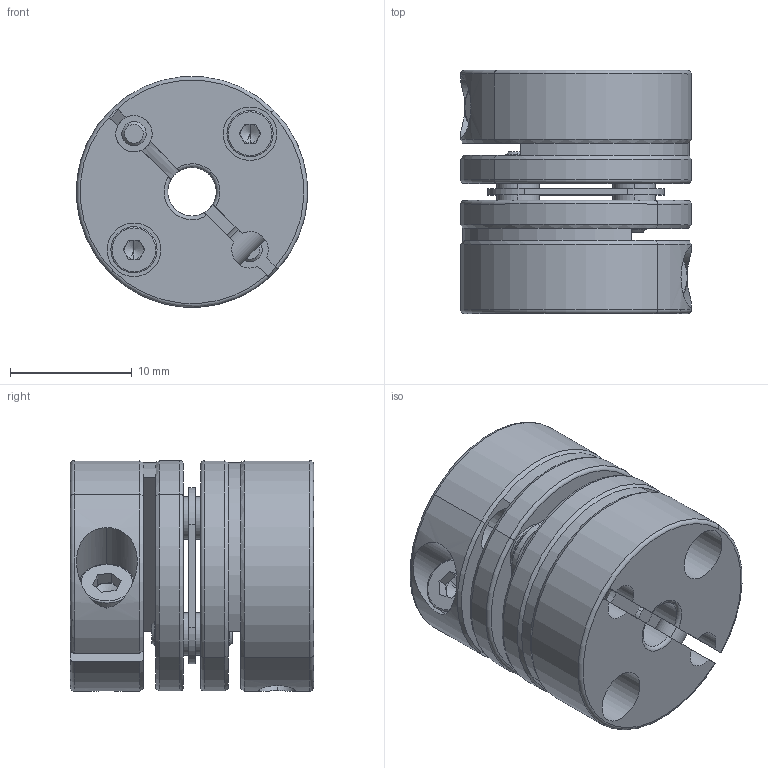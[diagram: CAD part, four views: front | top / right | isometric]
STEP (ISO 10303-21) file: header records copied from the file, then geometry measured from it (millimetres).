
FILE_DESCRIPTION (( 'STEP AP203' ), '1' );
FILE_NAME ('DXB-19X20-4-4.STEP', '2023-10-18T07:51:18', ( '' ), ( '' ), 'SwSTEP 2.0', 'SolidWorks 2020', '' );
FILE_SCHEMA (( 'CONFIG_CONTROL_DESIGN' ));
Length unit declared in the file: millimetre
Products named in the file (5): socket head cap screw_iso_ISO 4762 M2 x 4 - 4C; socket head cap screw_iso_ISO 4762 M2.5 x 8 - 8C; DXB-19X20-4-4; 19臚え薊粣ん傷裔; 19臚え郪
Assembly tree (9 placements, depth 2):
  DXB-19X20-4-4
    19臚え郪
    19臚え薊粣ん傷裔  x2
    socket head cap screw_iso_ISO 4762 M2 x 4 - 4C  x4
    socket head cap screw_iso_ISO 4762 M2.5 x 8 - 8C  x2
Bounding box: 19 x 20 x 18.96 mm (x, y, z)
Volume: 3978.2 mm3; surface area: 4730.7 mm2
Topology: 9 solids, 9 shells, 346 faces, 828 edges, 508 vertices
Faces by surface type: plane 136, cylinder 132, torus 44, cone 34
Entity records: 5846 total; most frequent: CARTESIAN_POINT 1061, DIRECTION 949, ORIENTED_EDGE 806, EDGE_CURVE 403, AXIS2_PLACEMENT_3D 387, VERTEX_POINT 255, EDGE_LOOP 208, CIRCLE 207
